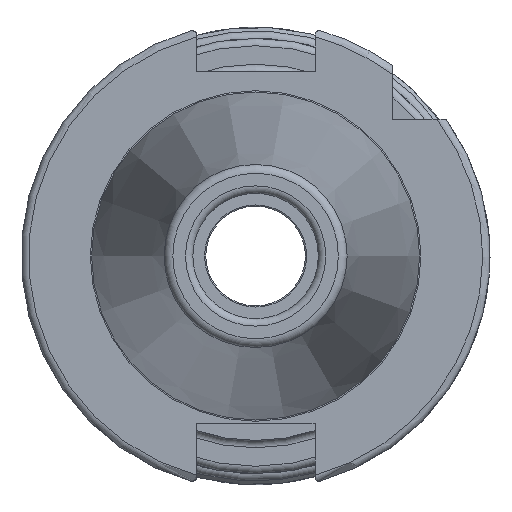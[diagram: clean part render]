
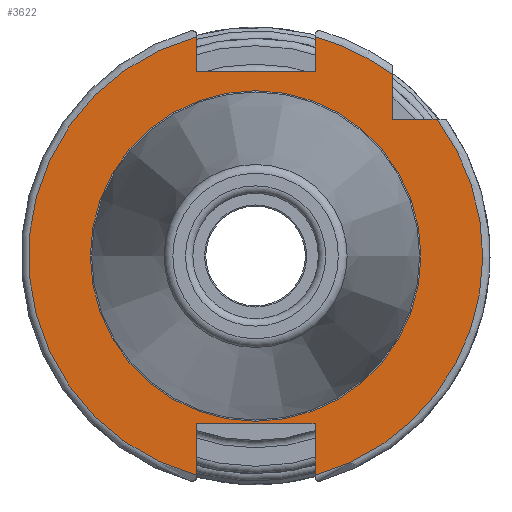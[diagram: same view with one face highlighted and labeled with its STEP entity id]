
A CAD part, left-side view. The second image highlights one B-rep face of the part: STEP entity #3622.
In plain terms, the highlighted planar face has unit normal (-1, 0, 0).
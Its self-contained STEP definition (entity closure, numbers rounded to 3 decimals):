
#139=FACE_BOUND('',#994,.T.);
#162=PLANE('',#3965);
#311=LINE('',#5688,#535);
#318=LINE('',#5731,#542);
#324=LINE('',#5775,#548);
#325=LINE('',#5777,#549);
#326=LINE('',#5779,#550);
#327=LINE('',#5783,#551);
#328=LINE('',#5785,#552);
#329=LINE('',#5787,#553);
#535=VECTOR('',#4519,10.);
#542=VECTOR('',#4528,10.);
#548=VECTOR('',#4538,10.);
#549=VECTOR('',#4539,10.);
#550=VECTOR('',#4540,10.);
#551=VECTOR('',#4543,10.);
#552=VECTOR('',#4544,10.);
#553=VECTOR('',#4545,10.);
#781=FACE_OUTER_BOUND('',#993,.T.);
#993=EDGE_LOOP('',(#2623,#2624,#2625,#2626,#2627,#2628,#2629,#2630,#2631,
#2632,#2633));
#994=EDGE_LOOP('',(#2634,#2635));
#1243=CIRCLE('',#3966,30.775);
#1244=CIRCLE('',#3967,30.775);
#1245=CIRCLE('',#3968,30.775);
#1246=CIRCLE('',#3969,22.4);
#1247=CIRCLE('',#3970,22.4);
#1531=VERTEX_POINT('',#5686);
#1532=VERTEX_POINT('',#5687);
#1541=VERTEX_POINT('',#5730);
#1550=VERTEX_POINT('',#5772);
#1551=VERTEX_POINT('',#5774);
#1552=VERTEX_POINT('',#5776);
#1553=VERTEX_POINT('',#5778);
#1554=VERTEX_POINT('',#5780);
#1555=VERTEX_POINT('',#5782);
#1556=VERTEX_POINT('',#5784);
#1557=VERTEX_POINT('',#5786);
#1558=VERTEX_POINT('',#5789);
#1559=VERTEX_POINT('',#5790);
#1944=EDGE_CURVE('',#1531,#1532,#311,.T.);
#1955=EDGE_CURVE('',#1541,#1531,#318,.T.);
#1965=EDGE_CURVE('',#1550,#1532,#1243,.T.);
#1966=EDGE_CURVE('',#1550,#1551,#324,.T.);
#1967=EDGE_CURVE('',#1551,#1552,#325,.T.);
#1968=EDGE_CURVE('',#1552,#1553,#326,.T.);
#1969=EDGE_CURVE('',#1554,#1553,#1244,.T.);
#1970=EDGE_CURVE('',#1554,#1555,#327,.T.);
#1971=EDGE_CURVE('',#1555,#1556,#328,.T.);
#1972=EDGE_CURVE('',#1556,#1557,#329,.T.);
#1973=EDGE_CURVE('',#1541,#1557,#1245,.T.);
#1974=EDGE_CURVE('',#1558,#1559,#1246,.T.);
#1975=EDGE_CURVE('',#1559,#1558,#1247,.T.);
#2623=ORIENTED_EDGE('',*,*,#1955,.T.);
#2624=ORIENTED_EDGE('',*,*,#1944,.T.);
#2625=ORIENTED_EDGE('',*,*,#1965,.F.);
#2626=ORIENTED_EDGE('',*,*,#1966,.T.);
#2627=ORIENTED_EDGE('',*,*,#1967,.T.);
#2628=ORIENTED_EDGE('',*,*,#1968,.T.);
#2629=ORIENTED_EDGE('',*,*,#1969,.F.);
#2630=ORIENTED_EDGE('',*,*,#1970,.T.);
#2631=ORIENTED_EDGE('',*,*,#1971,.T.);
#2632=ORIENTED_EDGE('',*,*,#1972,.T.);
#2633=ORIENTED_EDGE('',*,*,#1973,.F.);
#2634=ORIENTED_EDGE('',*,*,#1974,.T.);
#2635=ORIENTED_EDGE('',*,*,#1975,.T.);
#3622=ADVANCED_FACE('',(#781,#139),#162,.T.);
#3965=AXIS2_PLACEMENT_3D('',#5771,#4534,#4535);
#3966=AXIS2_PLACEMENT_3D('',#5773,#4536,#4537);
#3967=AXIS2_PLACEMENT_3D('',#5781,#4541,#4542);
#3968=AXIS2_PLACEMENT_3D('',#5788,#4546,#4547);
#3969=AXIS2_PLACEMENT_3D('',#5791,#4548,#4549);
#3970=AXIS2_PLACEMENT_3D('',#5792,#4550,#4551);
#4519=DIRECTION('',(0.,0.,1.));
#4528=DIRECTION('',(0.,1.,0.));
#4534=DIRECTION('center_axis',(-1.,0.,0.));
#4535=DIRECTION('ref_axis',(0.,0.,1.));
#4536=DIRECTION('center_axis',(1.,0.,0.));
#4537=DIRECTION('ref_axis',(0.,0.,-1.));
#4538=DIRECTION('',(0.,0.,-1.));
#4539=DIRECTION('',(0.,1.,0.));
#4540=DIRECTION('',(0.,0.,1.));
#4541=DIRECTION('center_axis',(1.,0.,0.));
#4542=DIRECTION('ref_axis',(0.,0.,-1.));
#4543=DIRECTION('',(0.,0.,1.));
#4544=DIRECTION('',(0.,-1.,0.));
#4545=DIRECTION('',(0.,0.,-1.));
#4546=DIRECTION('center_axis',(1.,0.,0.));
#4547=DIRECTION('ref_axis',(0.,0.,-1.));
#4548=DIRECTION('center_axis',(1.,0.,0.));
#4549=DIRECTION('ref_axis',(0.,0.,-1.));
#4550=DIRECTION('center_axis',(1.,0.,0.));
#4551=DIRECTION('ref_axis',(0.,0.,-1.));
#5686=CARTESIAN_POINT('',(3.2,-18.5,18.5));
#5687=CARTESIAN_POINT('',(3.2,-18.5,24.594));
#5688=CARTESIAN_POINT('',(3.2,-18.5,14.25));
#5730=CARTESIAN_POINT('',(3.2,-24.594,18.5));
#5731=CARTESIAN_POINT('',(3.2,6.138,18.5));
#5771=CARTESIAN_POINT('Origin',(3.2,30.775,0.));
#5772=CARTESIAN_POINT('',(3.2,-8.05,29.704));
#5773=CARTESIAN_POINT('Origin',(3.2,0.,0.));
#5774=CARTESIAN_POINT('',(3.2,-8.05,25.));
#5775=CARTESIAN_POINT('',(3.2,-8.05,12.5));
#5776=CARTESIAN_POINT('',(3.2,8.05,25.));
#5777=CARTESIAN_POINT('',(3.2,15.388,25.));
#5778=CARTESIAN_POINT('',(3.2,8.05,29.704));
#5779=CARTESIAN_POINT('',(3.2,8.05,12.5));
#5780=CARTESIAN_POINT('',(3.2,8.05,-29.704));
#5781=CARTESIAN_POINT('Origin',(3.2,0.,0.));
#5782=CARTESIAN_POINT('',(3.2,8.05,-22.7));
#5783=CARTESIAN_POINT('',(3.2,8.05,-11.35));
#5784=CARTESIAN_POINT('',(3.2,-8.05,-22.7));
#5785=CARTESIAN_POINT('',(3.2,15.388,-22.7));
#5786=CARTESIAN_POINT('',(3.2,-8.05,-29.704));
#5787=CARTESIAN_POINT('',(3.2,-8.05,-11.35));
#5788=CARTESIAN_POINT('Origin',(3.2,0.,0.));
#5789=CARTESIAN_POINT('',(3.2,22.4,0.));
#5790=CARTESIAN_POINT('',(3.2,0.,22.4));
#5791=CARTESIAN_POINT('Origin',(3.2,0.,0.));
#5792=CARTESIAN_POINT('Origin',(3.2,0.,0.));
